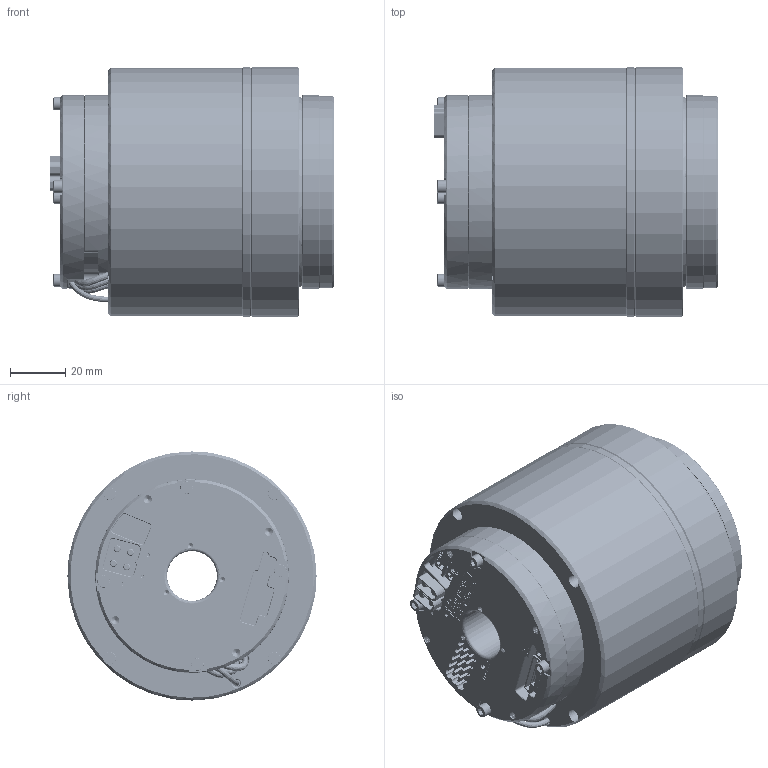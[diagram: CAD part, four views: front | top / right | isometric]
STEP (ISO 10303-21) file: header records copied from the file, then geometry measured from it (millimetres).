
FILE_DESCRIPTION (( 'STEP AP203' ), '1' );
FILE_NAME ('eRob90H｡ﾁ｡ﾁI-XX-18CX_V3_MC2A.DX.XX.step', '2024-05-21T10:24:55', ( 'Windows User' ), ( 'P R C' ), 'SwSTEP 2.0', 'SolidWorks 2021', '' );
FILE_SCHEMA (( 'CONFIG_CONTROL_DESIGN' ));
Length unit declared in the file: millimetre
Products named in the file (1): eRob90H××I-XX-18CX_V3_MC2A.DX.XX
Bounding box: 102.3 x 90 x 90 mm (x, y, z)
Volume: 511215.5 mm3; surface area: 60781.1 mm2
Topology: 1 solids, 1 shells, 4509 faces, 12191 edges, 7930 vertices
Faces by surface type: plane 2116, cylinder 1735, bspline 434, cone 155, torus 69
Entity records: 364191 total; most frequent: CARTESIAN_POINT 259889, ORIENTED_EDGE 24194, DIRECTION 18615, EDGE_CURVE 12097, VERTEX_POINT 7930, LINE 7163, VECTOR 7163, AXIS2_PLACEMENT_3D 5726
